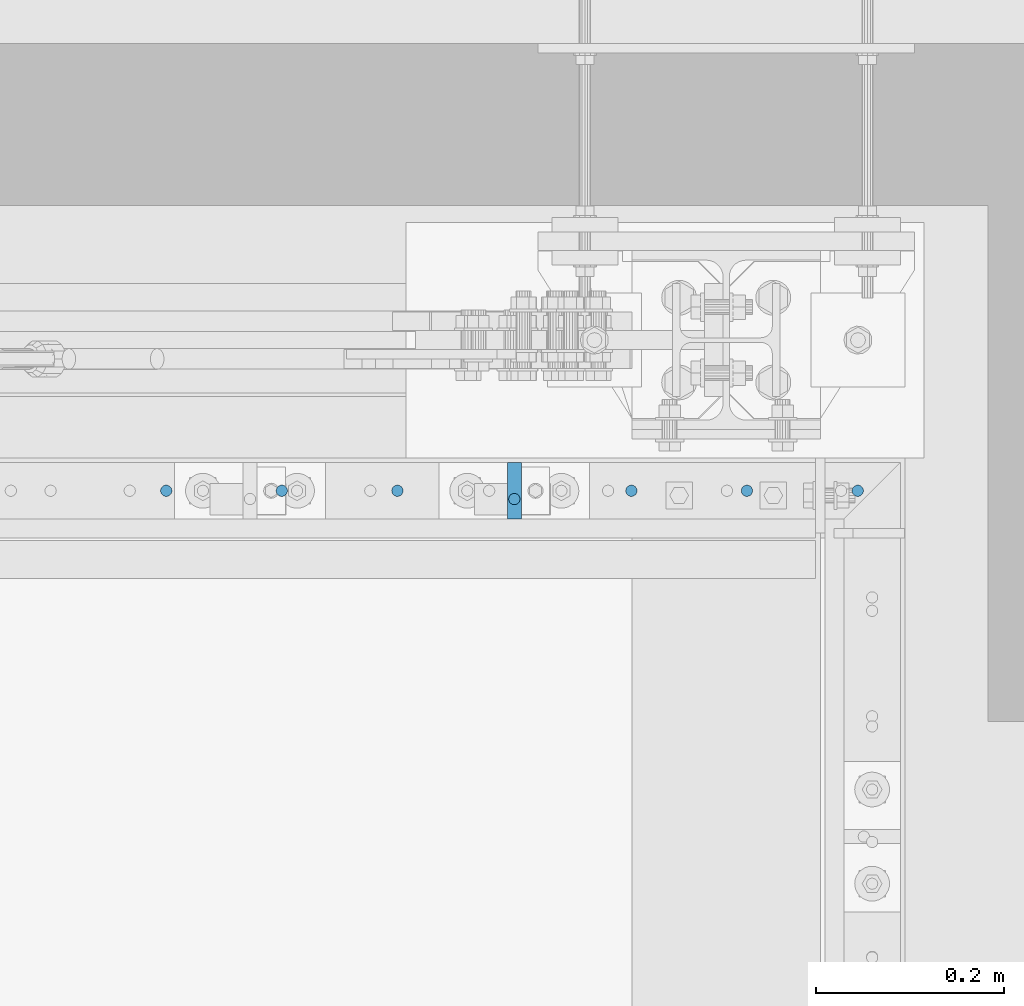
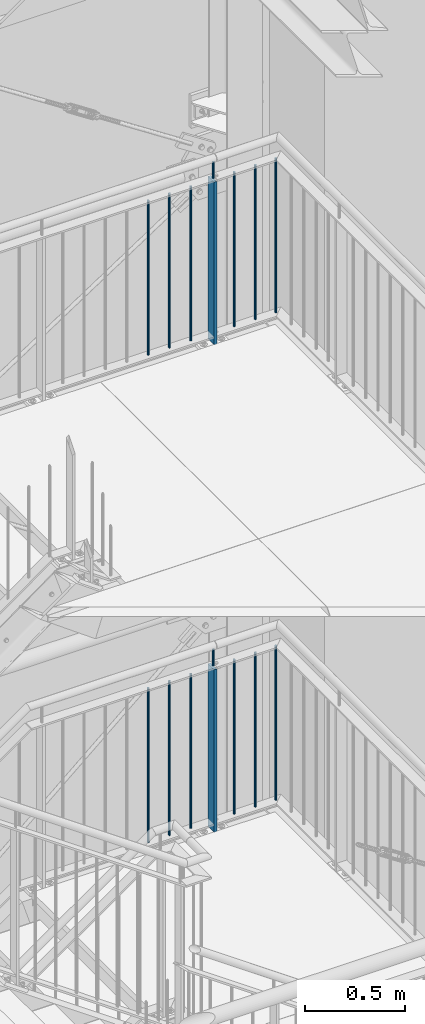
# One storey, part 109 of 825: 16 columns.
"""IFC2X3 building model written with IfcOpenShell, lengths in millimetres."""

from ifc_helpers import new_model, entity, si_unit, converted_unit, frame, origin, origin_with_axes, origin_2d, place, context, project, spatial, rectangle, circle, extrude, clip, halfspace, material, element, save


model = new_model("IFC2X3")

# Units and contexts
model_context = context("Model", 3, precision=1e-09, world=origin_with_axes())
ifc_project = project(units=[si_unit("LENGTHUNIT", "METRE", prefix="MILLI"), si_unit("AREAUNIT", "SQUARE_METRE"), si_unit("VOLUMEUNIT", "CUBIC_METRE"), converted_unit("PLANEANGLEUNIT", "DEGREE", entity("IfcPlaneAngleMeasure", 0.01745329), si_unit("PLANEANGLEUNIT", "RADIAN"), dimensions=[0, 0, 0, 0, 0, 0, 0])], contexts=[model_context])

# Site, building, storey
site_placement = place(None, origin_with_axes())
site = spatial("IfcSite", under=ifc_project, at=site_placement, Name="Cnopf'sche Kinderklinik", CompositionType="ELEMENT")
building_placement = place(site_placement, origin_with_axes())
building = spatial("IfcBuilding", under=site, at=building_placement, Name="Struktur 1", CompositionType="ELEMENT")
storey_placement = place(building_placement, origin_with_axes())
storey = spatial("IfcBuildingStorey", under=building, at=storey_placement, Name="Default Storey", CompositionType="ELEMENT", Elevation=0.0)

# Columns
ifc_material = material(Name="S235JR")
column_1_placement = place(None, frame((8641.713974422, 7356.736971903, 6714.618028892), z_axis=(0.0, 0.0, 1.0), x_axis=(1.0, 0.0, 0.0)))
element("IfcColumn", 1, at=column_1_placement, inside=storey, material=ifc_material, Name="Railing_Post_Landing#4", ObjectType="Railing_Post_Landing#4", context=model_context, shape_type="Clipping", body=[
    clip(clip(extrude(rectangle(XDim=15.0, YDim=60.0, at=origin_2d()), origin(), (0.0, 0.0, -1.0), 1070.646584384), halfspace(frame((-8641.713974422, -7356.736971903, -1019.722292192), z_axis=(0.0, 0.0, 1.0), x_axis=(1.0, 0.0, 0.0)), True)), halfspace(frame((-8641.713974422, -7356.736971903, -30.924292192), z_axis=(0.0, 0.0, -1.0), x_axis=(-1.0, 0.0, 0.0)), True)),
])
column_2_placement = place(None, frame((8271.963926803, 7356.736971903, 6697.180018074), z_axis=(0.0, 0.0, 1.0), x_axis=(1.0, 0.0, 0.0)))
element("IfcColumn", 2, at=column_2_placement, inside=storey, material=ifc_material, Name="Railing_Picket_Landing#25", ObjectType="Railing_Picket_Landing#25", context=model_context, shape_type="Clipping", body=[
    clip(clip(extrude(circle(Radius=6.0, at=origin_2d()), origin(), (0.0, 0.0, -1.0), 965.770562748), halfspace(frame((-8271.963926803, -7356.736971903, -13.486281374), z_axis=(0.0, 0.0, -1.0), x_axis=(-1.0, 0.0, 0.0)), True)), halfspace(frame((-8271.963926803, -7356.736971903, -952.284281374), z_axis=(0.0, 0.0, 1.0), x_axis=(1.0, 0.0, 0.0)), True)),
])
column_3_placement = place(None, frame((8394.713950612, 7356.736971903, 6697.180018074), z_axis=(0.0, 0.0, 1.0), x_axis=(1.0, 0.0, 0.0)))
element("IfcColumn", 3, at=column_3_placement, inside=storey, material=ifc_material, Name="Railing_Picket_Landing#26", ObjectType="Railing_Picket_Landing#26", context=model_context, shape_type="Clipping", body=[
    clip(clip(extrude(circle(Radius=6.0, at=origin_2d()), origin(), (0.0, 0.0, -1.0), 965.770562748), halfspace(frame((-8394.713950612, -7356.736971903, -13.486281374), z_axis=(0.0, 0.0, -1.0), x_axis=(-1.0, 0.0, 0.0)), True)), halfspace(frame((-8394.713950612, -7356.736971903, -952.284281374), z_axis=(0.0, 0.0, 1.0), x_axis=(1.0, 0.0, 0.0)), True)),
])
column_4_placement = place(None, frame((8517.463974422, 7356.736971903, 6697.180018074), z_axis=(0.0, 0.0, 1.0), x_axis=(1.0, 0.0, 0.0)))
element("IfcColumn", 4, at=column_4_placement, inside=storey, material=ifc_material, Name="Railing_Picket_Landing#27", ObjectType="Railing_Picket_Landing#27", context=model_context, shape_type="Clipping", body=[
    clip(clip(extrude(circle(Radius=6.0, at=origin_2d()), origin(), (0.0, 0.0, -1.0), 965.770562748), halfspace(frame((-8517.463974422, -7356.736971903, -13.486281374), z_axis=(0.0, 0.0, -1.0), x_axis=(-1.0, 0.0, 0.0)), True)), halfspace(frame((-8517.463974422, -7356.736971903, -952.284281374), z_axis=(0.0, 0.0, 1.0), x_axis=(1.0, 0.0, 0.0)), True)),
])
column_5_placement = place(None, frame((8765.963974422, 7356.736971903, 6697.180018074), z_axis=(0.0, 0.0, 1.0), x_axis=(1.0, 0.0, 0.0)))
element("IfcColumn", 5, at=column_5_placement, inside=storey, material=ifc_material, Name="Railing_Picket_Landing#28", ObjectType="Railing_Picket_Landing#28", context=model_context, shape_type="Clipping", body=[
    clip(clip(extrude(circle(Radius=6.0, at=origin_2d()), origin(), (0.0, 0.0, -1.0), 965.770562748), halfspace(frame((-8765.963974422, -7356.736971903, -13.486281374), z_axis=(0.0, 0.0, -1.0), x_axis=(-1.0, 0.0, 0.0)), True)), halfspace(frame((-8765.963974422, -7356.736971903, -952.284281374), z_axis=(0.0, 0.0, 1.0), x_axis=(1.0, 0.0, 0.0)), True)),
])
column_6_placement = place(None, frame((8888.713998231, 7356.736971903, 6697.180018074), z_axis=(0.0, 0.0, 1.0), x_axis=(1.0, 0.0, 0.0)))
element("IfcColumn", 6, at=column_6_placement, inside=storey, material=ifc_material, Name="Railing_Picket_Landing#29", ObjectType="Railing_Picket_Landing#29", context=model_context, shape_type="Clipping", body=[
    clip(clip(extrude(circle(Radius=6.0, at=origin_2d()), origin(), (0.0, 0.0, -1.0), 965.770562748), halfspace(frame((-8888.713998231, -7356.736971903, -13.486281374), z_axis=(0.0, 0.0, -1.0), x_axis=(-1.0, 0.0, 0.0)), True)), halfspace(frame((-8888.713998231, -7356.736971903, -952.284281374), z_axis=(0.0, 0.0, 1.0), x_axis=(1.0, 0.0, 0.0)), True)),
])
column_7_placement = place(None, frame((9006.464022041, 7356.736971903, 6697.180018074), z_axis=(0.0, 0.0, 1.0), x_axis=(1.0, 0.0, 0.0)))
element("IfcColumn", 7, at=column_7_placement, inside=storey, material=ifc_material, Name="Railing_Picket_Landing#30", ObjectType="Railing_Picket_Landing#30", context=model_context, shape_type="Clipping", body=[
    clip(clip(extrude(circle(Radius=6.0, at=origin_2d()), origin(), (0.0, 0.0, -1.0), 965.770562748), halfspace(frame((-9006.464022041, -7356.736971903, -13.486281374), z_axis=(0.0, 0.0, -1.0), x_axis=(-1.0, 0.0, 0.0)), True)), halfspace(frame((-9006.464022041, -7356.736971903, -952.284281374), z_axis=(0.0, 0.0, 1.0), x_axis=(1.0, 0.0, 0.0)), True)),
])
column_8_placement = place(None, frame((8641.713974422, 7347.936971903, 6802.180018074), z_axis=(0.0, 0.0, 1.0), x_axis=(0.0, -1.0, 0.0)))
element("IfcColumn", 8, at=column_8_placement, inside=storey, material=ifc_material, Name="Bar#4", ObjectType="Bar#4", context=model_context, shape_type="Clipping", body=[
    clip(clip(extrude(circle(Radius=6.0, at=origin_2d()), origin(), (0.0, 0.0, -1.0), 116.970562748), halfspace(frame((7347.936971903, -8641.713974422, -8.486281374), z_axis=(0.0, 0.0, -1.0), x_axis=(0.0, -1.0, 0.0)), True)), halfspace(frame((7347.936971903, -8641.713974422, -108.484281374), z_axis=(0.0, 0.0, 1.0), x_axis=(0.0, 1.0, 0.0)), True)),
])
column_9_placement = place(None, frame((8641.713974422, 7356.736971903, 9675.723292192), z_axis=(0.0, 0.0, 1.0), x_axis=(1.0, 0.0, 0.0)))
element("IfcColumn", 9, at=column_9_placement, inside=storey, material=ifc_material, Name="Railing_Post_Landing#4", ObjectType="Railing_Post_Landing#4", context=model_context, shape_type="Clipping", body=[
    clip(clip(extrude(rectangle(XDim=15.0, YDim=60.0, at=origin_2d()), origin(), (0.0, 0.0, -1.0), 1070.646584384), halfspace(frame((-8641.713974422, -7356.736971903, -1019.722292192), z_axis=(0.0, 0.0, 1.0), x_axis=(1.0, 0.0, 0.0)), True)), halfspace(frame((-8641.713974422, -7356.736971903, -30.924292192), z_axis=(0.0, 0.0, -1.0), x_axis=(-1.0, 0.0, 0.0)), True)),
])
column_10_placement = place(None, frame((8271.963926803, 7356.736971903, 9658.285281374), z_axis=(0.0, 0.0, 1.0), x_axis=(1.0, 0.0, 0.0)))
element("IfcColumn", 10, at=column_10_placement, inside=storey, material=ifc_material, Name="Railing_Picket_Landing#25", ObjectType="Railing_Picket_Landing#25", context=model_context, shape_type="Clipping", body=[
    clip(clip(extrude(circle(Radius=6.0, at=origin_2d()), origin(), (0.0, 0.0, -1.0), 965.770562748), halfspace(frame((-8271.963926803, -7356.736971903, -13.486281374), z_axis=(0.0, 0.0, -1.0), x_axis=(-1.0, 0.0, 0.0)), True)), halfspace(frame((-8271.963926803, -7356.736971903, -952.284281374), z_axis=(0.0, 0.0, 1.0), x_axis=(1.0, 0.0, 0.0)), True)),
])
column_11_placement = place(None, frame((8394.713950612, 7356.736971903, 9658.285281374), z_axis=(0.0, 0.0, 1.0), x_axis=(1.0, 0.0, 0.0)))
element("IfcColumn", 11, at=column_11_placement, inside=storey, material=ifc_material, Name="Railing_Picket_Landing#26", ObjectType="Railing_Picket_Landing#26", context=model_context, shape_type="Clipping", body=[
    clip(clip(extrude(circle(Radius=6.0, at=origin_2d()), origin(), (0.0, 0.0, -1.0), 965.770562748), halfspace(frame((-8394.713950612, -7356.736971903, -13.486281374), z_axis=(0.0, 0.0, -1.0), x_axis=(-1.0, 0.0, 0.0)), True)), halfspace(frame((-8394.713950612, -7356.736971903, -952.284281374), z_axis=(0.0, 0.0, 1.0), x_axis=(1.0, 0.0, 0.0)), True)),
])
column_12_placement = place(None, frame((8517.463974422, 7356.736971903, 9658.285281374), z_axis=(0.0, 0.0, 1.0), x_axis=(1.0, 0.0, 0.0)))
element("IfcColumn", 12, at=column_12_placement, inside=storey, material=ifc_material, Name="Railing_Picket_Landing#27", ObjectType="Railing_Picket_Landing#27", context=model_context, shape_type="Clipping", body=[
    clip(clip(extrude(circle(Radius=6.0, at=origin_2d()), origin(), (0.0, 0.0, -1.0), 965.770562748), halfspace(frame((-8517.463974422, -7356.736971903, -13.486281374), z_axis=(0.0, 0.0, -1.0), x_axis=(-1.0, 0.0, 0.0)), True)), halfspace(frame((-8517.463974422, -7356.736971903, -952.284281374), z_axis=(0.0, 0.0, 1.0), x_axis=(1.0, 0.0, 0.0)), True)),
])
column_13_placement = place(None, frame((8765.963974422, 7356.736971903, 9658.285281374), z_axis=(0.0, 0.0, 1.0), x_axis=(1.0, 0.0, 0.0)))
element("IfcColumn", 13, at=column_13_placement, inside=storey, material=ifc_material, Name="Railing_Picket_Landing#28", ObjectType="Railing_Picket_Landing#28", context=model_context, shape_type="Clipping", body=[
    clip(clip(extrude(circle(Radius=6.0, at=origin_2d()), origin(), (0.0, 0.0, -1.0), 965.770562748), halfspace(frame((-8765.963974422, -7356.736971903, -13.486281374), z_axis=(0.0, 0.0, -1.0), x_axis=(-1.0, 0.0, 0.0)), True)), halfspace(frame((-8765.963974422, -7356.736971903, -952.284281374), z_axis=(0.0, 0.0, 1.0), x_axis=(1.0, 0.0, 0.0)), True)),
])
column_14_placement = place(None, frame((8888.713998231, 7356.736971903, 9658.285281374), z_axis=(0.0, 0.0, 1.0), x_axis=(1.0, 0.0, 0.0)))
element("IfcColumn", 14, at=column_14_placement, inside=storey, material=ifc_material, Name="Railing_Picket_Landing#29", ObjectType="Railing_Picket_Landing#29", context=model_context, shape_type="Clipping", body=[
    clip(clip(extrude(circle(Radius=6.0, at=origin_2d()), origin(), (0.0, 0.0, -1.0), 965.770562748), halfspace(frame((-8888.713998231, -7356.736971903, -13.486281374), z_axis=(0.0, 0.0, -1.0), x_axis=(-1.0, 0.0, 0.0)), True)), halfspace(frame((-8888.713998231, -7356.736971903, -952.284281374), z_axis=(0.0, 0.0, 1.0), x_axis=(1.0, 0.0, 0.0)), True)),
])
column_15_placement = place(None, frame((9006.464022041, 7356.736971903, 9658.285281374), z_axis=(0.0, 0.0, 1.0), x_axis=(1.0, 0.0, 0.0)))
element("IfcColumn", 15, at=column_15_placement, inside=storey, material=ifc_material, Name="Railing_Picket_Landing#30", ObjectType="Railing_Picket_Landing#30", context=model_context, shape_type="Clipping", body=[
    clip(clip(extrude(circle(Radius=6.0, at=origin_2d()), origin(), (0.0, 0.0, -1.0), 965.770562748), halfspace(frame((-9006.464022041, -7356.736971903, -13.486281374), z_axis=(0.0, 0.0, -1.0), x_axis=(-1.0, 0.0, 0.0)), True)), halfspace(frame((-9006.464022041, -7356.736971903, -952.284281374), z_axis=(0.0, 0.0, 1.0), x_axis=(1.0, 0.0, 0.0)), True)),
])
column_16_placement = place(None, frame((8641.713974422, 7347.936971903, 9763.285281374), z_axis=(0.0, 0.0, 1.0), x_axis=(0.0, -1.0, 0.0)))
element("IfcColumn", 16, at=column_16_placement, inside=storey, material=ifc_material, Name="Bar#4", ObjectType="Bar#4", context=model_context, shape_type="Clipping", body=[
    clip(clip(extrude(circle(Radius=6.0, at=origin_2d()), origin(), (0.0, 0.0, -1.0), 116.970562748), halfspace(frame((7347.936971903, -8641.713974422, -8.486281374), z_axis=(0.0, 0.0, -1.0), x_axis=(0.0, -1.0, 0.0)), True)), halfspace(frame((7347.936971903, -8641.713974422, -108.484281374), z_axis=(0.0, 0.0, 1.0), x_axis=(0.0, 1.0, 0.0)), True)),
])

save(model, "model.ifc")
